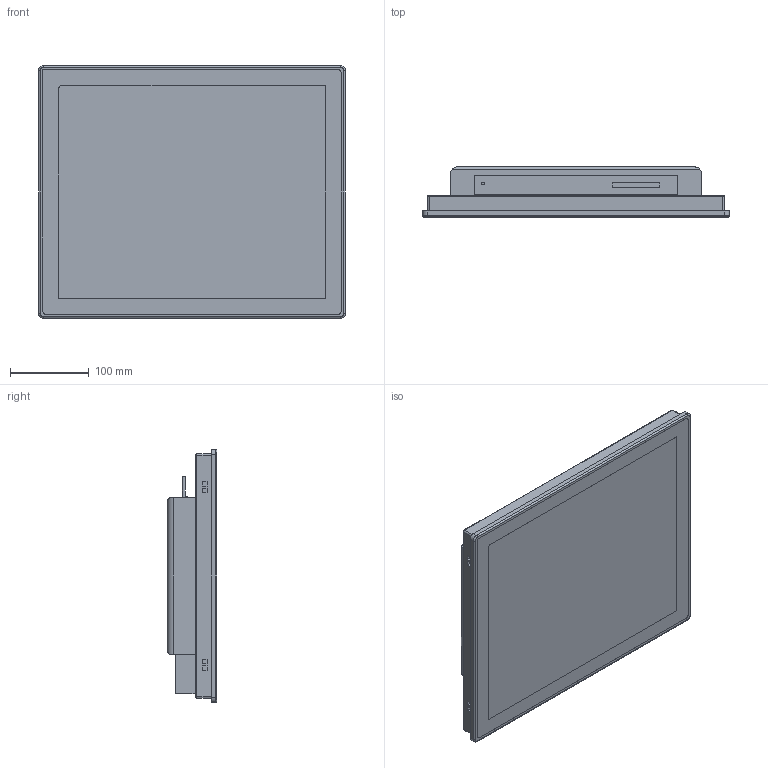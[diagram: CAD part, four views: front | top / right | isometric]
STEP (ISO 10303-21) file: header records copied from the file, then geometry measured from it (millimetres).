
FILE_DESCRIPTION(/* description */ ('Unknown'),/* implementation_level */ '2;1');
FILE_NAME(/* name */ 'eMonitor TH-CI 17''''',/* time_stamp */ '2022-06-17T14:25:32+02:00',/* author */ ('Unknown'),/* organization */ ('Unknown'),/* preprocessor_version */ 'ST-DEVELOPER v18.1',/* originating_system */ 'Solid Edge',/* authorisation */ 'Unknown');
FILE_SCHEMA (('AUTOMOTIVE_DESIGN {1 0 10303 214 3 1 1}'));
Length unit declared in the file: millimetre
Products named in the file (1): eMonitor TH-CI 17''
Bounding box: 389 x 63.2 x 320 mm (x, y, z)
Volume: 5765491.9 mm3; surface area: 351908.6 mm2
Topology: 1 solids, 1 shells, 131 faces, 308 edges, 199 vertices
Faces by surface type: plane 92, cylinder 31, torus 4, sphere 4
Full cylindrical faces by diameter (mm): 3 x8, 3.6 x1
Entity records: 4531 total; most frequent: DIRECTION 620, CARTESIAN_POINT 608, ORIENTED_EDGE 572, EDGE_CURVE 286, LINE 216, VECTOR 216, AXIS2_PLACEMENT_3D 202, VERTEX_POINT 190
